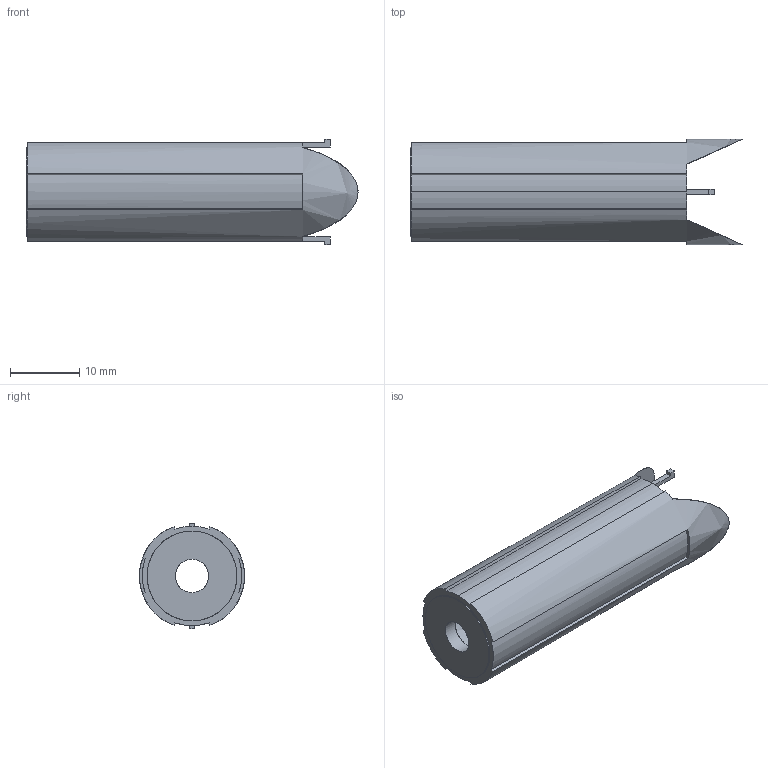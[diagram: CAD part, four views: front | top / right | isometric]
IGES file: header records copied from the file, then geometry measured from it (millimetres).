
Start section: C
Global section: file name: ClGrey_4638507_b)_AVV.iges; native system: By Siemens PLM Incorporated; preprocessor: XPlus GENERIC/IGES 26.1.183; author: Author; organization: Title; date: 20250721.235829; units: millimetre
Bounding box: 48 x 15.2 x 15.19 mm (x, y, z)
Surface area: 4212.3 mm2 (no closed solid volume)
Topology: 0 solids, 0 shells, 40 faces, 232 edges, 232 vertices
Faces by surface type: bspline 40
